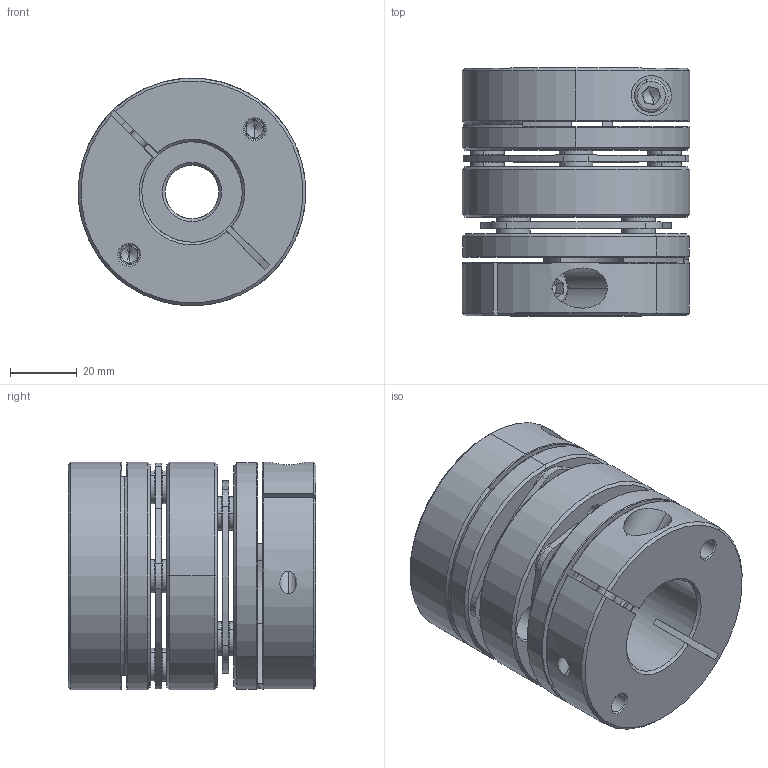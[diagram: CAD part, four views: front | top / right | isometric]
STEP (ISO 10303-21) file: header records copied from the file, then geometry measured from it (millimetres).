
FILE_DESCRIPTION (( 'STEP AP203' ), '1' );
FILE_NAME ('LD2-D68-16-30.STEP', '2021-10-26T08:20:46', ( '' ), ( '' ), 'SwSTEP 2.0', 'SolidWorks 2018', '' );
FILE_SCHEMA (( 'CONFIG_CONTROL_DESIGN' ));
Length unit declared in the file: millimetre
Products named in the file (2): LD2-D68-16-30; 錨璃102^LD2-D68
Assembly tree (1 placements, depth 2):
  LD2-D68-16-30
    錨璃102^LD2-D68
Bounding box: 68 x 74 x 68 mm (x, y, z)
Volume: 183357.3 mm3; surface area: 64032.3 mm2
Topology: 1 solids, 27 shells, 734 faces, 1712 edges, 1042 vertices
Faces by surface type: cylinder 256, cone 226, plane 222, torus 30
Entity records: 21554 total; most frequent: DIRECTION 4004, CARTESIAN_POINT 3937, ORIENTED_EDGE 3376, EDGE_CURVE 1688, AXIS2_PLACEMENT_3D 1625, VERTEX_POINT 1042, CIRCLE 887, EDGE_LOOP 870
